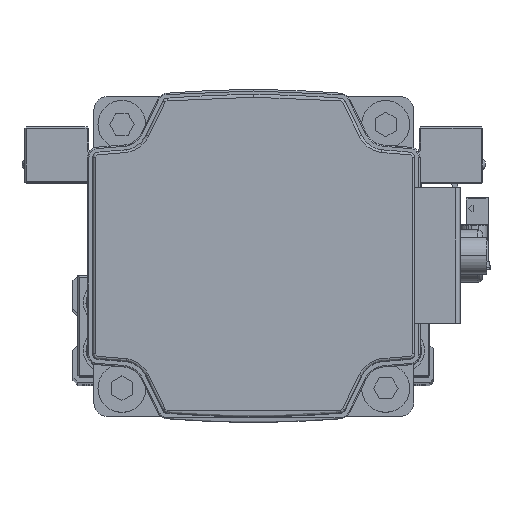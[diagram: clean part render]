
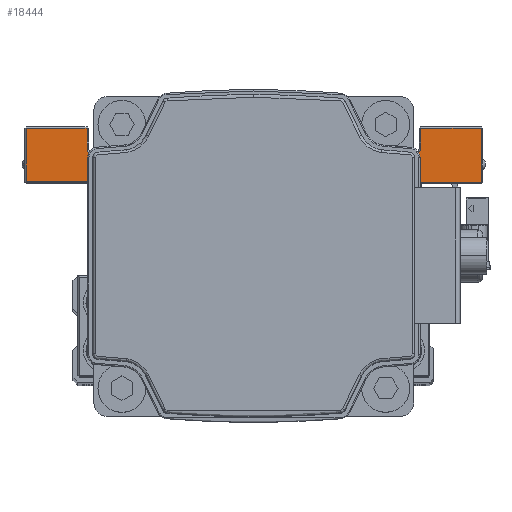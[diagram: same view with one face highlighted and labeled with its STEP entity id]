
A CAD part, top view. The second image highlights one B-rep face of the part: STEP entity #18444.
In plain terms, the highlighted planar face has unit normal (0, 0, 1) as drawn and (1, 0, 0) by its records, which use the part's own axes.
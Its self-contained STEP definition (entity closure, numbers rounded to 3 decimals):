
#82 = EDGE_LOOP ( 'NONE', ( #12907, #32211, #6640, #26674, #20729, #22096, #21607, #23836, #8525, #30269, #11206, #28760, #31094, #35171 ) ) ;
#264 = CARTESIAN_POINT ( 'NONE',  ( 45., 7.5, 42.7 ) ) ;
#753 = VECTOR ( 'NONE', #29010, 1000. ) ;
#945 = DIRECTION ( 'NONE',  ( 0., 0., -1. ) ) ;
#1411 = DIRECTION ( 'NONE',  ( 0., -1., 0. ) ) ;
#1435 = LINE ( 'NONE', #13784, #39307 ) ;
#2091 = LINE ( 'NONE', #23743, #15580 ) ;
#3059 = CARTESIAN_POINT ( 'NONE',  ( 45., 7.5, -20. ) ) ;
#3139 = EDGE_CURVE ( 'NONE', #14338, #33749, #2091, .T. ) ;
#3483 = EDGE_CURVE ( 'NONE', #36732, #31495, #1435, .T. ) ;
#3503 = EDGE_CURVE ( 'NONE', #39483, #36732, #10741, .T. ) ;
#3614 = VERTEX_POINT ( 'NONE', #29973 ) ;
#3932 = EDGE_CURVE ( 'NONE', #9453, #14338, #36637, .T. ) ;
#4304 = LINE ( 'NONE', #16652, #753 ) ;
#5446 = VECTOR ( 'NONE', #5897, 1000. ) ;
#5897 = DIRECTION ( 'NONE',  ( 0., 0., 1. ) ) ;
#6640 = ORIENTED_EDGE ( 'NONE', *, *, #3503, .T. ) ;
#6647 = LINE ( 'NONE', #18993, #8998 ) ;
#7346 = EDGE_CURVE ( 'NONE', #21056, #32735, #4304, .T. ) ;
#7442 = LINE ( 'NONE', #19786, #13119 ) ;
#7450 = CARTESIAN_POINT ( 'NONE',  ( 45., 14., 30. ) ) ;
#8315 = VECTOR ( 'NONE', #39095, 1000. ) ;
#8412 = CARTESIAN_POINT ( 'NONE',  ( 45., 17.7, 31.3 ) ) ;
#8525 = ORIENTED_EDGE ( 'NONE', *, *, #3139, .T. ) ;
#8609 = VERTEX_POINT ( 'NONE', #34716 ) ;
#8998 = VECTOR ( 'NONE', #31337, 1000. ) ;
#9453 = VERTEX_POINT ( 'NONE', #26890 ) ;
#9801 = DIRECTION ( 'NONE',  ( -1., 0., 0. ) ) ;
#10486 = CARTESIAN_POINT ( 'NONE',  ( 45., 7.8, 20. ) ) ;
#10741 = LINE ( 'NONE', #23078, #21838 ) ;
#11206 = ORIENTED_EDGE ( 'NONE', *, *, #24966, .T. ) ;
#11526 = CARTESIAN_POINT ( 'NONE',  ( 45., 17.7, 42.7 ) ) ;
#12621 = DIRECTION ( 'NONE',  ( 0., -1., 0. ) ) ;
#12907 = ORIENTED_EDGE ( 'NONE', *, *, #22344, .T. ) ;
#13119 = VECTOR ( 'NONE', #32126, 1000. ) ;
#13784 = CARTESIAN_POINT ( 'NONE',  ( 45., 17.7, -20. ) ) ;
#14338 = VERTEX_POINT ( 'NONE', #31621 ) ;
#14414 = LINE ( 'NONE', #26766, #8315 ) ;
#15130 = CIRCLE ( 'NONE', #37731, 1.3 ) ;
#15409 = DIRECTION ( 'NONE',  ( -1., 0., 0. ) ) ;
#15580 = VECTOR ( 'NONE', #36072, 1000. ) ;
#15862 = VERTEX_POINT ( 'NONE', #24857 ) ;
#15939 = CARTESIAN_POINT ( 'NONE',  ( 45., -8.2, -19.7 ) ) ;
#16333 = LINE ( 'NONE', #28686, #37705 ) ;
#16652 = CARTESIAN_POINT ( 'NONE',  ( 45., 7.5, 19.7 ) ) ;
#16790 = LINE ( 'NONE', #29143, #33877 ) ;
#18269 = VERTEX_POINT ( 'NONE', #35693 ) ;
#18441 = FACE_OUTER_BOUND ( 'NONE', #82, .T. ) ;
#18444 = ADVANCED_FACE ( 'NONE', ( #18441 ), #30791, .F. ) ;
#18558 = CARTESIAN_POINT ( 'NONE',  ( 45., 17.7, -42.7 ) ) ;
#18993 = CARTESIAN_POINT ( 'NONE',  ( 45., 7.5, -19.7 ) ) ;
#19178 = AXIS2_PLACEMENT_3D ( 'NONE', #7450, #19797, #32134 ) ;
#19271 = CARTESIAN_POINT ( 'NONE',  ( 45., 17.7, -31.3 ) ) ;
#19424 = EDGE_CURVE ( 'NONE', #33749, #31638, #21275, .T. ) ;
#19786 = CARTESIAN_POINT ( 'NONE',  ( 45., -8.2, -20. ) ) ;
#19797 = DIRECTION ( 'NONE',  ( -1., 0., 0. ) ) ;
#20729 = ORIENTED_EDGE ( 'NONE', *, *, #28153, .T. ) ;
#21056 = VERTEX_POINT ( 'NONE', #27904 ) ;
#21275 = LINE ( 'NONE', #33612, #5446 ) ;
#21607 = ORIENTED_EDGE ( 'NONE', *, *, #36092, .T. ) ;
#21838 = VECTOR ( 'NONE', #35419, 1000. ) ;
#22096 = ORIENTED_EDGE ( 'NONE', *, *, #27689, .T. ) ;
#22146 = DIRECTION ( 'NONE',  ( 0., 0., 1. ) ) ;
#22344 = EDGE_CURVE ( 'NONE', #31852, #18269, #6647, .T. ) ;
#22817 = DIRECTION ( 'NONE',  ( 0., 0., -1. ) ) ;
#23078 = CARTESIAN_POINT ( 'NONE',  ( 45., 7.5, -42.7 ) ) ;
#23743 = CARTESIAN_POINT ( 'NONE',  ( 45., 7.5, 31.3 ) ) ;
#23836 = ORIENTED_EDGE ( 'NONE', *, *, #3932, .T. ) ;
#24857 = CARTESIAN_POINT ( 'NONE',  ( 45., 14., -31.3 ) ) ;
#24966 = EDGE_CURVE ( 'NONE', #31638, #3614, #28010, .T. ) ;
#26132 = DIRECTION ( 'NONE',  ( 0., 0., 1. ) ) ;
#26674 = ORIENTED_EDGE ( 'NONE', *, *, #3483, .T. ) ;
#26766 = CARTESIAN_POINT ( 'NONE',  ( 45., 12.7, 30. ) ) ;
#26890 = CARTESIAN_POINT ( 'NONE',  ( 45., 12.7, 30. ) ) ;
#27188 = VECTOR ( 'NONE', #22817, 1000. ) ;
#27339 = EDGE_CURVE ( 'NONE', #18269, #39483, #16333, .T. ) ;
#27689 = EDGE_CURVE ( 'NONE', #15862, #8609, #15130, .T. ) ;
#27770 = DIRECTION ( 'NONE',  ( 0., 0., 1. ) ) ;
#27904 = CARTESIAN_POINT ( 'NONE',  ( 45., 7.8, 19.7 ) ) ;
#28010 = LINE ( 'NONE', #264, #30415 ) ;
#28153 = EDGE_CURVE ( 'NONE', #31495, #15862, #16790, .T. ) ;
#28686 = CARTESIAN_POINT ( 'NONE',  ( 45., 7.5, 43. ) ) ;
#28760 = ORIENTED_EDGE ( 'NONE', *, *, #39533, .T. ) ;
#29010 = DIRECTION ( 'NONE',  ( 0., -1., 0. ) ) ;
#29143 = CARTESIAN_POINT ( 'NONE',  ( 45., 7.5, -31.3 ) ) ;
#29973 = CARTESIAN_POINT ( 'NONE',  ( 45., 7.8, 42.7 ) ) ;
#30269 = ORIENTED_EDGE ( 'NONE', *, *, #19424, .T. ) ;
#30415 = VECTOR ( 'NONE', #12621, 1000. ) ;
#30791 = PLANE ( 'NONE',  #37028 ) ;
#31094 = ORIENTED_EDGE ( 'NONE', *, *, #7346, .T. ) ;
#31337 = DIRECTION ( 'NONE',  ( 0., 1., 0. ) ) ;
#31495 = VERTEX_POINT ( 'NONE', #19271 ) ;
#31621 = CARTESIAN_POINT ( 'NONE',  ( 45., 14., 31.3 ) ) ;
#31638 = VERTEX_POINT ( 'NONE', #11526 ) ;
#31852 = VERTEX_POINT ( 'NONE', #15939 ) ;
#31947 = EDGE_CURVE ( 'NONE', #32735, #31852, #7442, .T. ) ;
#32126 = DIRECTION ( 'NONE',  ( 0., 0., -1. ) ) ;
#32134 = DIRECTION ( 'NONE',  ( 0., 0., 1. ) ) ;
#32211 = ORIENTED_EDGE ( 'NONE', *, *, #27339, .T. ) ;
#32735 = VERTEX_POINT ( 'NONE', #34866 ) ;
#33612 = CARTESIAN_POINT ( 'NONE',  ( 45., 17.7, -20. ) ) ;
#33749 = VERTEX_POINT ( 'NONE', #8412 ) ;
#33877 = VECTOR ( 'NONE', #1411, 1000. ) ;
#34716 = CARTESIAN_POINT ( 'NONE',  ( 45., 12.7, -30. ) ) ;
#34734 = CARTESIAN_POINT ( 'NONE',  ( 45., 7.5, -42.7 ) ) ;
#34866 = CARTESIAN_POINT ( 'NONE',  ( 45., -8.2, 19.7 ) ) ;
#35171 = ORIENTED_EDGE ( 'NONE', *, *, #31947, .T. ) ;
#35419 = DIRECTION ( 'NONE',  ( 0., 1., 0. ) ) ;
#35693 = CARTESIAN_POINT ( 'NONE',  ( 45., 7.5, -19.7 ) ) ;
#36072 = DIRECTION ( 'NONE',  ( 0., 1., 0. ) ) ;
#36092 = EDGE_CURVE ( 'NONE', #8609, #9453, #14414, .T. ) ;
#36637 = CIRCLE ( 'NONE', #19178, 1.3 ) ;
#36732 = VERTEX_POINT ( 'NONE', #18558 ) ;
#37028 = AXIS2_PLACEMENT_3D ( 'NONE', #3059, #15409, #27770 ) ;
#37522 = CARTESIAN_POINT ( 'NONE',  ( 45., 14., -30. ) ) ;
#37705 = VECTOR ( 'NONE', #945, 1000. ) ;
#37731 = AXIS2_PLACEMENT_3D ( 'NONE', #37522, #9801, #22146 ) ;
#38201 = LINE ( 'NONE', #10486, #27188 ) ;
#39095 = DIRECTION ( 'NONE',  ( 0., 0., 1. ) ) ;
#39307 = VECTOR ( 'NONE', #26132, 1000. ) ;
#39483 = VERTEX_POINT ( 'NONE', #34734 ) ;
#39533 = EDGE_CURVE ( 'NONE', #3614, #21056, #38201, .T. ) ;
